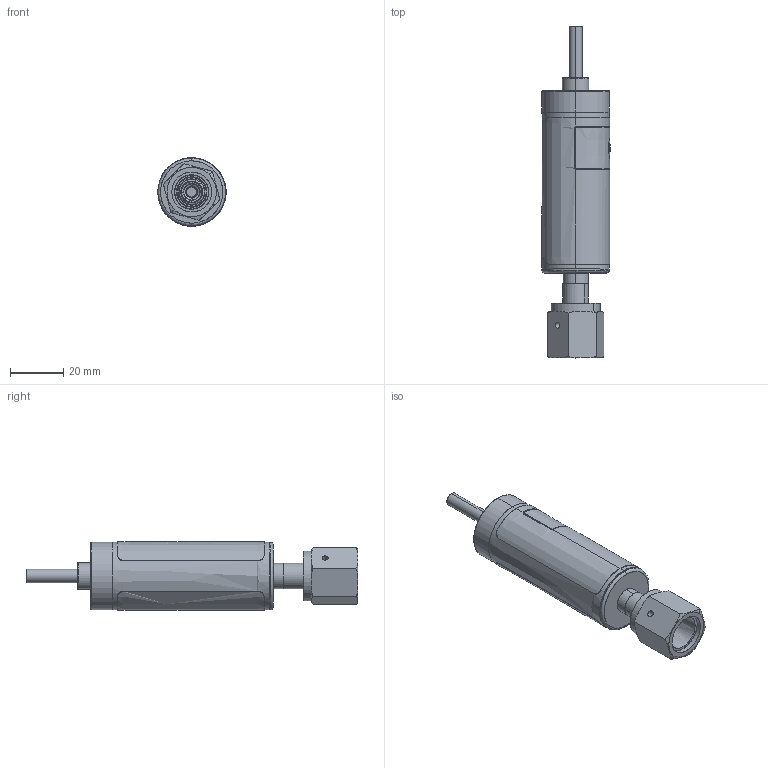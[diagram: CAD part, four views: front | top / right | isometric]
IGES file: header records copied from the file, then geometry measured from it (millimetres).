
Start section: SolidWorks IGES file using analytic representation for surfaces
Global section: file name: R:\Brooks Instrument\25-0024 SSII CAD File Generation\Client Files\SSII CAD Models for Website\CAD for Brooks Website\Example\GSD\GSD-XXXXXX-P-XXX-SF\IGES\GSD-XXXXXX-P-XXX-SF.IGS; native system: SolidWorks 2023; preprocessor: SolidWorks 2023; author: CYatsko; date: 250625.101119; units: inch
Bounding box: 25.65 x 124.84 x 25.76 mm (x, y, z)
Surface area: 17628.8 mm2 (no closed solid volume)
Topology: 0 solids, 0 shells, 219 faces, 3457 edges, 3457 vertices
Faces by surface type: bspline 127, revolution 92
